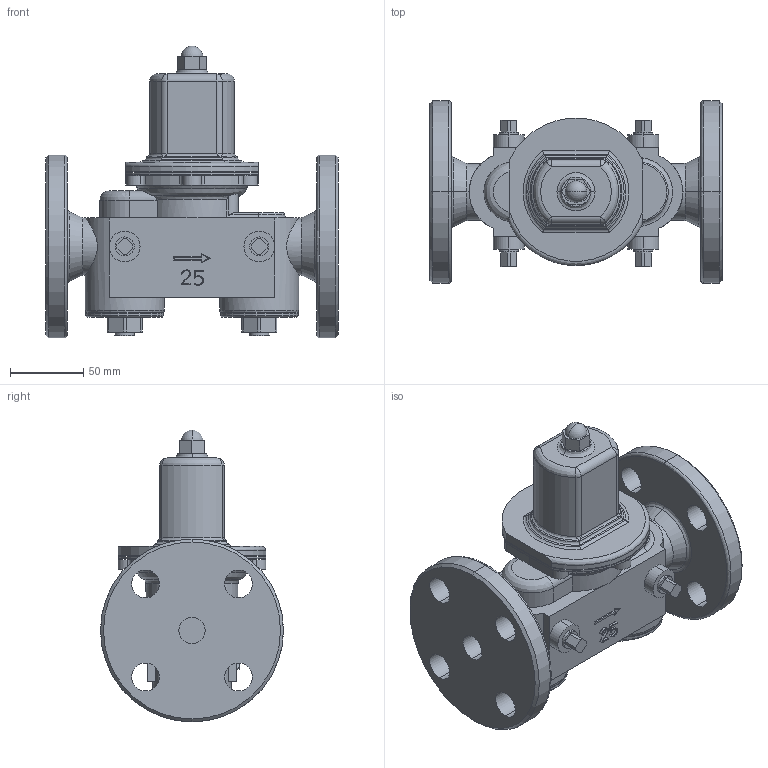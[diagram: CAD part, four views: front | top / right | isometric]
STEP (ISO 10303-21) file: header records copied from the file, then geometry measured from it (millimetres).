
FILE_DESCRIPTION( (''), '2;1');
FILE_NAME ('PC1028.10328.GD-27BP(25A)_31972.stp','2024-12-18T14:20:15',(''),(''),'spGate 20.6.3 (****-****-****-****)','','');
FILE_SCHEMA (('AUTOMOTIVE_DESIGN'));
Length unit declared in the file: millimetre
Bounding box: 200 x 125 x 199.5 mm (x, y, z)
Volume: 1236798 mm3; surface area: 147168.6 mm2
Topology: 1 solids, 1 shells, 349 faces, 881 edges, 558 vertices
Faces by surface type: cylinder 148, plane 106, bspline 89, sphere 6
Entity records: 20492 total; most frequent: CARTESIAN_POINT 5641, ORIENTED_EDGE 1750, DIRECTION 1517, COLOUR_RGB 1225, PRESENTATION_STYLE_ASSIGNMENT 1225, STYLED_ITEM 1225, EDGE_CURVE 875, DRAUGHTING_PRE_DEFINED_CURVE_FONT 875
